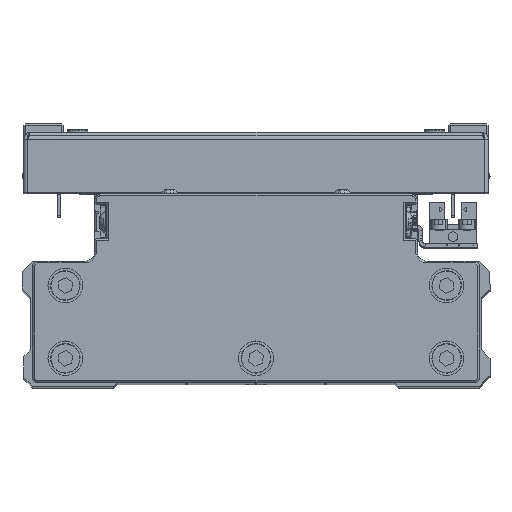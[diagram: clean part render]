
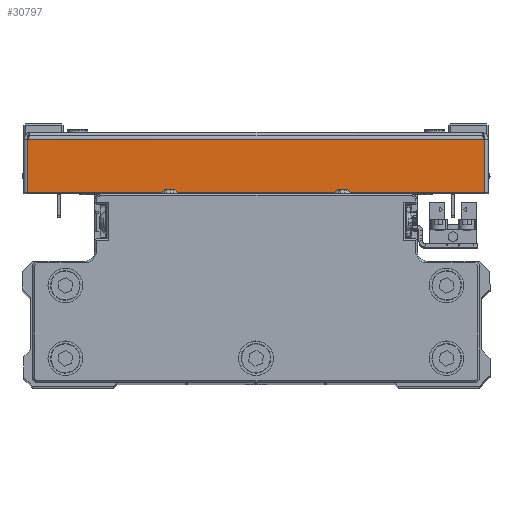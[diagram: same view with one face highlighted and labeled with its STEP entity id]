
A CAD part, top view. The second image highlights one B-rep face of the part: STEP entity #30797.
In plain terms, the highlighted planar face has unit normal (0, 0, 1) as drawn and (1, 0, 0) by its records, which use the part's own axes.
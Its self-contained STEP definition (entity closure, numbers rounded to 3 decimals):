
#560 = LINE ( 'NONE', #13882, #26428 ) ;
#577 = EDGE_LOOP ( 'NONE', ( #24951, #29819, #41043, #1911 ) ) ;
#817 = AXIS2_PLACEMENT_3D ( 'NONE', #16296, #29583, #42901 ) ;
#1086 = VERTEX_POINT ( 'NONE', #34636 ) ;
#1143 = CARTESIAN_POINT ( 'NONE',  ( 75., 1., 67. ) ) ;
#1146 = CARTESIAN_POINT ( 'NONE',  ( 75., 1., -65.929 ) ) ;
#1911 = ORIENTED_EDGE ( 'NONE', *, *, #23122, .F. ) ;
#2978 = PLANE ( 'NONE',  #817 ) ;
#3327 = LINE ( 'NONE', #16646, #7145 ) ;
#5029 = EDGE_CURVE ( 'NONE', #39236, #16915, #31031, .T. ) ;
#7145 = VECTOR ( 'NONE', #29936, 1000. ) ;
#8283 = VECTOR ( 'NONE', #23870, 1000. ) ;
#10549 = CARTESIAN_POINT ( 'NONE',  ( 75., 0., -65.929 ) ) ;
#13882 = CARTESIAN_POINT ( 'NONE',  ( 75., 16.5, 0. ) ) ;
#14468 = DIRECTION ( 'NONE',  ( 0., 0., 1. ) ) ;
#15952 = CARTESIAN_POINT ( 'NONE',  ( 75., 1., 65.929 ) ) ;
#16296 = CARTESIAN_POINT ( 'NONE',  ( 75., 0., 0. ) ) ;
#16646 = CARTESIAN_POINT ( 'NONE',  ( 75., 0., 65.929 ) ) ;
#16915 = VERTEX_POINT ( 'NONE', #15952 ) ;
#19165 = VECTOR ( 'NONE', #14468, 1000. ) ;
#20693 = CARTESIAN_POINT ( 'NONE',  ( 75., 16.5, 65.929 ) ) ;
#23122 = EDGE_CURVE ( 'NONE', #16915, #23536, #3327, .T. ) ;
#23536 = VERTEX_POINT ( 'NONE', #20693 ) ;
#23870 = DIRECTION ( 'NONE',  ( 0., 1., 0. ) ) ;
#24951 = ORIENTED_EDGE ( 'NONE', *, *, #5029, .F. ) ;
#26428 = VECTOR ( 'NONE', #27193, 1000. ) ;
#27193 = DIRECTION ( 'NONE',  ( 0., 0., 1. ) ) ;
#29583 = DIRECTION ( 'NONE',  ( -1., 0., 0. ) ) ;
#29819 = ORIENTED_EDGE ( 'NONE', *, *, #39157, .T. ) ;
#29936 = DIRECTION ( 'NONE',  ( 0., 1., 0. ) ) ;
#30797 = ADVANCED_FACE ( 'NONE', ( #32842 ), #2978, .F. ) ;
#31031 = LINE ( 'NONE', #1143, #19165 ) ;
#32842 = FACE_OUTER_BOUND ( 'NONE', #577, .T. ) ;
#34636 = CARTESIAN_POINT ( 'NONE',  ( 75., 16.5, -65.929 ) ) ;
#39157 = EDGE_CURVE ( 'NONE', #39236, #1086, #40435, .T. ) ;
#39236 = VERTEX_POINT ( 'NONE', #1146 ) ;
#39944 = EDGE_CURVE ( 'NONE', #1086, #23536, #560, .T. ) ;
#40435 = LINE ( 'NONE', #10549, #8283 ) ;
#41043 = ORIENTED_EDGE ( 'NONE', *, *, #39944, .T. ) ;
#42901 = DIRECTION ( 'NONE',  ( 0., -1., 0. ) ) ;
